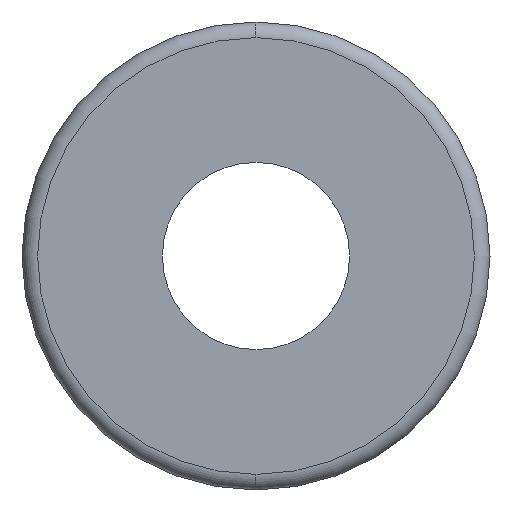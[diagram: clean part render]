
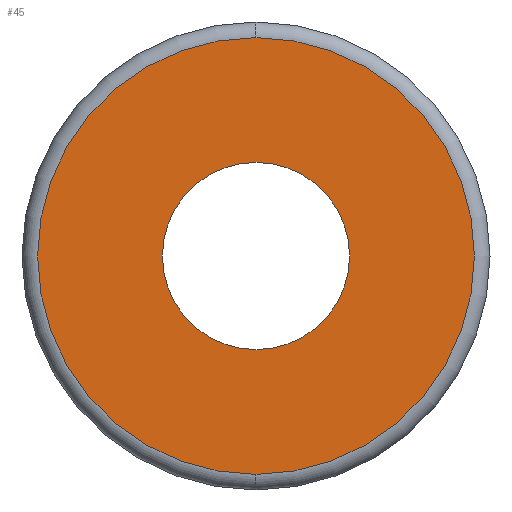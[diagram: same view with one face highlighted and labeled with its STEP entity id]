
A CAD part, left-side view. The second image highlights one B-rep face of the part: STEP entity #45.
In plain terms, the highlighted planar face has unit normal (-1, 0, 0).
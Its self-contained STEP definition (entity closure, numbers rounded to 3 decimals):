
#6 = ORIENTED_EDGE ( 'NONE', *, *, #84, .T. ) ;
#15 = DIRECTION ( 'NONE',  ( 0., 0., -1. ) ) ;
#23 = ORIENTED_EDGE ( 'NONE', *, *, #235, .F. ) ;
#29 = CARTESIAN_POINT ( 'NONE',  ( 0., 0., 14. ) ) ;
#45 = ADVANCED_FACE ( 'NONE', ( #234, #74 ), #379, .F. ) ;
#46 = CARTESIAN_POINT ( 'NONE',  ( 0., 0., -6. ) ) ;
#49 = DIRECTION ( 'NONE',  ( -1., 0., 0. ) ) ;
#74 = FACE_BOUND ( 'NONE', #96, .T. ) ;
#84 = EDGE_CURVE ( 'NONE', #131, #179, #142, .T. ) ;
#89 = AXIS2_PLACEMENT_3D ( 'NONE', #382, #364, #384 ) ;
#92 = CIRCLE ( 'NONE', #146, 14. ) ;
#93 = DIRECTION ( 'NONE',  ( -1., 0., 0. ) ) ;
#96 = EDGE_LOOP ( 'NONE', ( #23, #306 ) ) ;
#102 = CARTESIAN_POINT ( 'NONE',  ( 0., 0., 0. ) ) ;
#104 = AXIS2_PLACEMENT_3D ( 'NONE', #400, #182, #180 ) ;
#131 = VERTEX_POINT ( 'NONE', #29 ) ;
#139 = AXIS2_PLACEMENT_3D ( 'NONE', #298, #49, #15 ) ;
#142 = CIRCLE ( 'NONE', #139, 14. ) ;
#146 = AXIS2_PLACEMENT_3D ( 'NONE', #190, #385, #164 ) ;
#155 = VERTEX_POINT ( 'NONE', #292 ) ;
#159 = CIRCLE ( 'NONE', #352, 6. ) ;
#164 = DIRECTION ( 'NONE',  ( 0., 0., -1. ) ) ;
#177 = EDGE_LOOP ( 'NONE', ( #300, #6 ) ) ;
#179 = VERTEX_POINT ( 'NONE', #342 ) ;
#180 = DIRECTION ( 'NONE',  ( 0., 0., 1. ) ) ;
#182 = DIRECTION ( 'NONE',  ( -1., 0., 0. ) ) ;
#188 = VERTEX_POINT ( 'NONE', #46 ) ;
#190 = CARTESIAN_POINT ( 'NONE',  ( 0., 0., 0. ) ) ;
#227 = DIRECTION ( 'NONE',  ( 0., 0., 1. ) ) ;
#234 = FACE_OUTER_BOUND ( 'NONE', #177, .T. ) ;
#235 = EDGE_CURVE ( 'NONE', #155, #188, #159, .T. ) ;
#236 = CIRCLE ( 'NONE', #104, 6. ) ;
#275 = EDGE_CURVE ( 'NONE', #179, #131, #92, .T. ) ;
#292 = CARTESIAN_POINT ( 'NONE',  ( 0., 0., 6. ) ) ;
#298 = CARTESIAN_POINT ( 'NONE',  ( 0., 0., 0. ) ) ;
#300 = ORIENTED_EDGE ( 'NONE', *, *, #275, .T. ) ;
#306 = ORIENTED_EDGE ( 'NONE', *, *, #413, .F. ) ;
#342 = CARTESIAN_POINT ( 'NONE',  ( 0., 0., -14. ) ) ;
#352 = AXIS2_PLACEMENT_3D ( 'NONE', #102, #93, #227 ) ;
#364 = DIRECTION ( 'NONE',  ( 1., 0., 0. ) ) ;
#379 = PLANE ( 'NONE',  #89 ) ;
#382 = CARTESIAN_POINT ( 'NONE',  ( 0., 6., 0. ) ) ;
#384 = DIRECTION ( 'NONE',  ( 0., 0., -1. ) ) ;
#385 = DIRECTION ( 'NONE',  ( -1., 0., 0. ) ) ;
#400 = CARTESIAN_POINT ( 'NONE',  ( 0., 0., 0. ) ) ;
#413 = EDGE_CURVE ( 'NONE', #188, #155, #236, .T. ) ;
